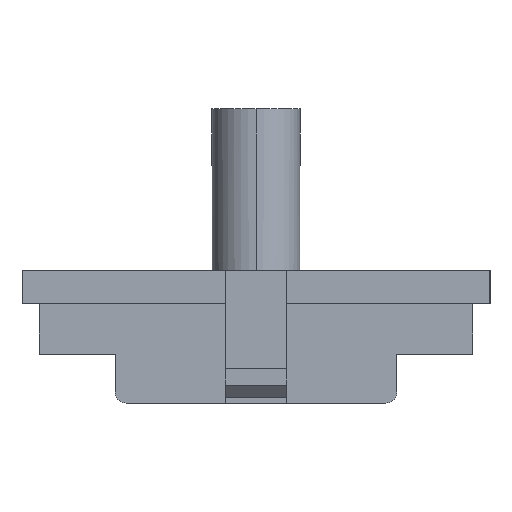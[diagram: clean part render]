
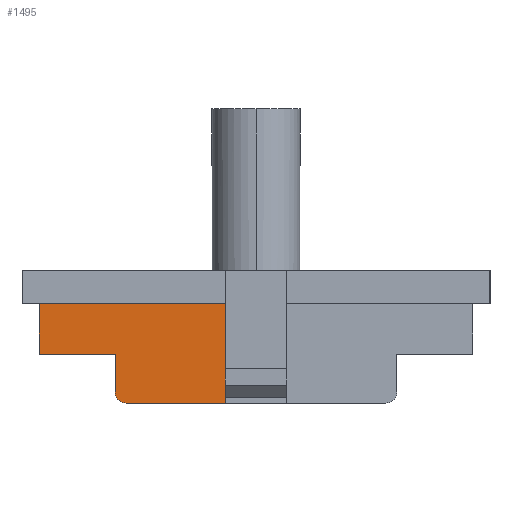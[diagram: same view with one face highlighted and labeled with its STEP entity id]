
A CAD part, left-side view. The second image highlights one B-rep face of the part: STEP entity #1495.
In plain terms, the highlighted planar face has unit normal (-1, 0, 0).
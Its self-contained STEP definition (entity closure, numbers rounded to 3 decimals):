
#117 = CARTESIAN_POINT ( 'NONE',  ( -38.75, 2.75, -11.24 ) ) ;
#375 = VERTEX_POINT ( 'NONE', #3437 ) ;
#399 = VECTOR ( 'NONE', #4410, 1000. ) ;
#449 = EDGE_CURVE ( 'NONE', #1579, #1792, #4437, .T. ) ;
#478 = VERTEX_POINT ( 'NONE', #3108 ) ;
#531 = EDGE_CURVE ( 'NONE', #574, #478, #4722, .T. ) ;
#532 = FACE_OUTER_BOUND ( 'NONE', #2897, .T. ) ;
#554 = ORIENTED_EDGE ( 'NONE', *, *, #3187, .F. ) ;
#574 = VERTEX_POINT ( 'NONE', #2719 ) ;
#610 = ORIENTED_EDGE ( 'NONE', *, *, #976, .F. ) ;
#625 = VERTEX_POINT ( 'NONE', #2440 ) ;
#646 = DIRECTION ( 'NONE',  ( 0., 1., 0. ) ) ;
#655 = CARTESIAN_POINT ( 'NONE',  ( -38.75, 19.45, -7.5 ) ) ;
#795 = VECTOR ( 'NONE', #2156, 1000. ) ;
#830 = ORIENTED_EDGE ( 'NONE', *, *, #449, .F. ) ;
#885 = CARTESIAN_POINT ( 'NONE',  ( -38.75, 2.75, -11.9 ) ) ;
#976 = EDGE_CURVE ( 'NONE', #1792, #2333, #3487, .T. ) ;
#1140 = CARTESIAN_POINT ( 'NONE',  ( -38.75, 19.45, -7.5 ) ) ;
#1157 = DIRECTION ( 'NONE',  ( 0., 0., -1. ) ) ;
#1194 = VECTOR ( 'NONE', #2299, 1000. ) ;
#1211 = CARTESIAN_POINT ( 'NONE',  ( -38.75, 11.65, -11.9 ) ) ;
#1342 = VECTOR ( 'NONE', #2485, 1000. ) ;
#1495 = ADVANCED_FACE ( 'NONE', ( #532 ), #3723, .F. ) ;
#1520 = AXIS2_PLACEMENT_3D ( 'NONE', #2834, #2917, #2750 ) ;
#1579 = VERTEX_POINT ( 'NONE', #2275 ) ;
#1581 = LINE ( 'NONE', #4720, #399 ) ;
#1744 = EDGE_CURVE ( 'NONE', #574, #375, #2175, .T. ) ;
#1792 = VERTEX_POINT ( 'NONE', #2121 ) ;
#1815 = CIRCLE ( 'NONE', #1520, 1. ) ;
#2121 = CARTESIAN_POINT ( 'NONE',  ( -38.75, 12.65, -7.5 ) ) ;
#2156 = DIRECTION ( 'NONE',  ( 0., 0., 1. ) ) ;
#2175 = LINE ( 'NONE', #2395, #1194 ) ;
#2204 = VECTOR ( 'NONE', #1157, 1000. ) ;
#2275 = CARTESIAN_POINT ( 'NONE',  ( -38.75, 12.65, -10.9 ) ) ;
#2299 = DIRECTION ( 'NONE',  ( 0., 0., -1. ) ) ;
#2333 = VERTEX_POINT ( 'NONE', #1140 ) ;
#2395 = CARTESIAN_POINT ( 'NONE',  ( -38.75, 2.75, -7.5 ) ) ;
#2440 = CARTESIAN_POINT ( 'NONE',  ( -38.75, 11.65, -11.9 ) ) ;
#2485 = DIRECTION ( 'NONE',  ( 0., 1., 0. ) ) ;
#2507 = CARTESIAN_POINT ( 'NONE',  ( -38.75, 2.75, -7.5 ) ) ;
#2589 = ORIENTED_EDGE ( 'NONE', *, *, #3248, .F. ) ;
#2719 = CARTESIAN_POINT ( 'NONE',  ( -38.75, 2.75, -3. ) ) ;
#2750 = DIRECTION ( 'NONE',  ( 0., 0., -1. ) ) ;
#2834 = CARTESIAN_POINT ( 'NONE',  ( -38.75, 11.65, -10.9 ) ) ;
#2860 = VECTOR ( 'NONE', #646, 1000. ) ;
#2869 = VECTOR ( 'NONE', #2943, 1000. ) ;
#2887 = ORIENTED_EDGE ( 'NONE', *, *, #531, .T. ) ;
#2897 = EDGE_LOOP ( 'NONE', ( #3591, #2887, #554, #610, #830, #3013, #3483, #2589, #4613 ) ) ;
#2917 = DIRECTION ( 'NONE',  ( 1., 0., 0. ) ) ;
#2930 = CARTESIAN_POINT ( 'NONE',  ( -38.75, 19.45, -3. ) ) ;
#2943 = DIRECTION ( 'NONE',  ( 0., 1., 0. ) ) ;
#3013 = ORIENTED_EDGE ( 'NONE', *, *, #3103, .F. ) ;
#3036 = VERTEX_POINT ( 'NONE', #117 ) ;
#3089 = EDGE_CURVE ( 'NONE', #3036, #375, #4739, .T. ) ;
#3093 = DIRECTION ( 'NONE',  ( 0., 0., 1. ) ) ;
#3103 = EDGE_CURVE ( 'NONE', #625, #1579, #1815, .T. ) ;
#3108 = CARTESIAN_POINT ( 'NONE',  ( -38.75, 19.45, -3. ) ) ;
#3114 = CARTESIAN_POINT ( 'NONE',  ( -38.75, 12.65, -3. ) ) ;
#3172 = LINE ( 'NONE', #2507, #2204 ) ;
#3187 = EDGE_CURVE ( 'NONE', #2333, #478, #1581, .T. ) ;
#3239 = EDGE_CURVE ( 'NONE', #3419, #625, #3281, .T. ) ;
#3248 = EDGE_CURVE ( 'NONE', #3036, #3419, #3172, .T. ) ;
#3281 = LINE ( 'NONE', #1211, #1342 ) ;
#3345 = CARTESIAN_POINT ( 'NONE',  ( -38.75, 2.75, -7.5 ) ) ;
#3419 = VERTEX_POINT ( 'NONE', #885 ) ;
#3437 = CARTESIAN_POINT ( 'NONE',  ( -38.75, 2.75, -8.8 ) ) ;
#3438 = AXIS2_PLACEMENT_3D ( 'NONE', #3715, #3704, #3703 ) ;
#3483 = ORIENTED_EDGE ( 'NONE', *, *, #3239, .F. ) ;
#3487 = LINE ( 'NONE', #655, #2860 ) ;
#3591 = ORIENTED_EDGE ( 'NONE', *, *, #1744, .F. ) ;
#3703 = DIRECTION ( 'NONE',  ( 0., 0., -1. ) ) ;
#3704 = DIRECTION ( 'NONE',  ( 1., 0., 0. ) ) ;
#3715 = CARTESIAN_POINT ( 'NONE',  ( -38.75, 19.45, -7.5 ) ) ;
#3723 = PLANE ( 'NONE',  #3438 ) ;
#3964 = VECTOR ( 'NONE', #3093, 1000. ) ;
#4410 = DIRECTION ( 'NONE',  ( 0., 0., 1. ) ) ;
#4437 = LINE ( 'NONE', #3114, #3964 ) ;
#4613 = ORIENTED_EDGE ( 'NONE', *, *, #3089, .T. ) ;
#4720 = CARTESIAN_POINT ( 'NONE',  ( -38.75, 19.45, -7.5 ) ) ;
#4722 = LINE ( 'NONE', #2930, #2869 ) ;
#4739 = LINE ( 'NONE', #3345, #795 ) ;
